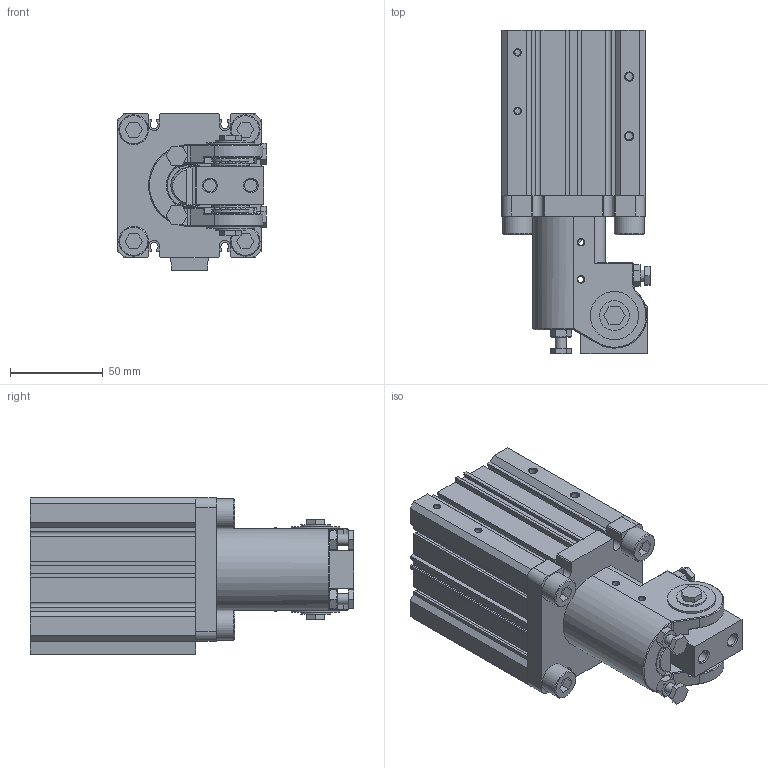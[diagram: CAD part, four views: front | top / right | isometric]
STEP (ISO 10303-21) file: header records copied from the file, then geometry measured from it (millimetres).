
FILE_DESCRIPTION(/* description */ (''),/* implementation_level */ '2;1');
FILE_NAME(/* name */ '_model1.stp',/* time_stamp */ '2023-05-31T09:34:35+08:00',/* author */ (''),/* organization */ (''),/* preprocessor_version */ 'ST-DEVELOPER v14',/* originating_system */ 'SIEMENS PLM Software NX 8.0',/* authorisation */ '');
FILE_SCHEMA (('AP203_CONFIGURATION_CONTROLLED_3D_DESIGN_OF_MECHANICAL_PARTS_AND_ASSEMBLIES_MIM_LF { 1 0 10303 403 2 1 2}'));
Length unit declared in the file: millimetre
Products named in the file (1): Admi0FF02E9Cg4nh
Bounding box: 79.75 x 174.01 x 84 mm (x, y, z)
Volume: 626129.6 mm3; surface area: 139925.1 mm2
Topology: 28 solids, 29 shells, 750 faces, 1807 edges, 1162 vertices
Faces by surface type: plane 411, cylinder 161, cone 144, sphere 24, torus 6, bspline 4
Full cylindrical faces by diameter (mm): 2 x2, 2.5 x7, 3 x2, 3.3 x6, 4.2 x2, 5 x10, 6 x10, 6.2 x1, 6.75 x2, 8.5 x4, 10 x4, 10.6 x4, 11.6 x2, 12 x10, 16 x6, 20 x5, 20.5 x1, 22.8 x1, 23 x2, 24 x2, 26 x2, 28 x1, 38 x2, 38.5 x1, 64.8 x1, 65 x3, 68.5 x2
Entity records: 23061 total; most frequent: CARTESIAN_POINT 6756, DIRECTION 3307, ORIENTED_EDGE 3026, EDGE_CURVE 1513, AXIS2_PLACEMENT_3D 1220, VERTEX_POINT 1083, EDGE_LOOP 1072, LINE 867
